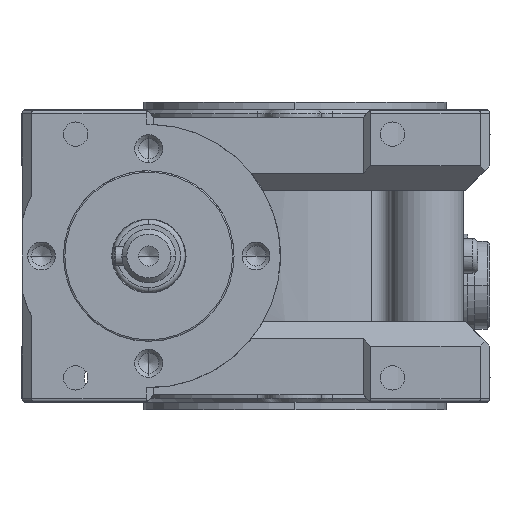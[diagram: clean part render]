
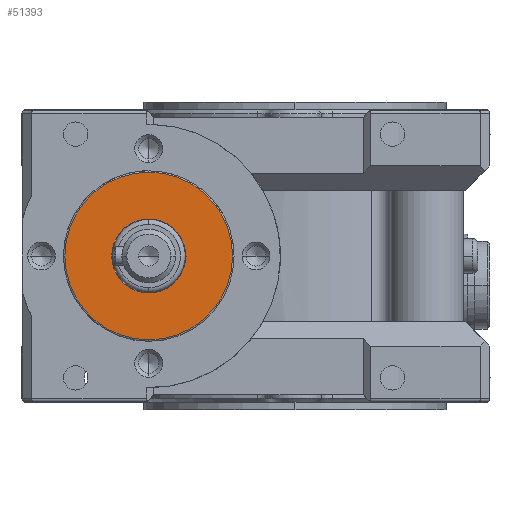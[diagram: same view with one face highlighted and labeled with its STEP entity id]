
A CAD part, left-side view. The second image highlights one B-rep face of the part: STEP entity #51393.
In plain terms, the highlighted planar face has unit normal (-1, 0, 0).
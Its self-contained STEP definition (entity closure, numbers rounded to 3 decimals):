
#50493=CARTESIAN_POINT('',(0.,0.,-7.588));
#50494=VERTEX_POINT('',#50493);
#50502=CARTESIAN_POINT('',(0.,0.,7.588));
#50503=VERTEX_POINT('',#50502);
#50504=CARTESIAN_POINT('',(0.,0.,0.0));
#50505=DIRECTION('',(1.0,0.0,0.0));
#50506=DIRECTION('',(0.0,1.0,0.0));
#50507=AXIS2_PLACEMENT_3D('',#50504,#50505,#50506);
#50508=CIRCLE('',#50507,7.588);
#50509=EDGE_CURVE('',#50503,#50494,#50508,.T.);
#50620=CARTESIAN_POINT('',(0.,7.588,0.0));
#50621=VERTEX_POINT('',#50620);
#50622=CARTESIAN_POINT('',(0.,0.,0.0));
#50623=DIRECTION('',(1.0,0.0,0.0));
#50624=DIRECTION('',(0.0,1.0,0.0));
#50625=AXIS2_PLACEMENT_3D('',#50622,#50623,#50624);
#50626=CIRCLE('',#50625,7.588);
#50627=EDGE_CURVE('',#50621,#50503,#50626,.T.);
#50629=CARTESIAN_POINT('',(0.,0.,0.0));
#50630=DIRECTION('',(1.0,0.0,0.0));
#50631=DIRECTION('',(0.0,1.0,0.0));
#50632=AXIS2_PLACEMENT_3D('',#50629,#50630,#50631);
#50633=CIRCLE('',#50632,7.588);
#50634=EDGE_CURVE('',#50494,#50621,#50633,.T.);
#51022=CARTESIAN_POINT('',(0.,0.,-17.2));
#51023=VERTEX_POINT('',#51022);
#51033=CARTESIAN_POINT('',(0.,17.2,0.0));
#51034=VERTEX_POINT('',#51033);
#51035=CARTESIAN_POINT('',(0.,0.,0.0));
#51036=DIRECTION('',(1.0,0.0,0.0));
#51037=DIRECTION('',(0.0,-1.0,0.0));
#51038=AXIS2_PLACEMENT_3D('',#51035,#51036,#51037);
#51039=CIRCLE('',#51038,17.2);
#51040=EDGE_CURVE('',#51023,#51034,#51039,.T.);
#51042=CARTESIAN_POINT('',(0.,0.,17.2));
#51043=VERTEX_POINT('',#51042);
#51044=CARTESIAN_POINT('',(0.,0.,0.0));
#51045=DIRECTION('',(1.0,0.0,0.0));
#51046=DIRECTION('',(0.0,-1.0,0.0));
#51047=AXIS2_PLACEMENT_3D('',#51044,#51045,#51046);
#51048=CIRCLE('',#51047,17.2);
#51049=EDGE_CURVE('',#51034,#51043,#51048,.T.);
#51348=CARTESIAN_POINT('',(0.,0.,0.0));
#51349=DIRECTION('',(1.0,0.0,0.0));
#51350=DIRECTION('',(0.0,-1.0,0.0));
#51351=AXIS2_PLACEMENT_3D('',#51348,#51349,#51350);
#51352=CIRCLE('',#51351,17.2);
#51353=EDGE_CURVE('',#51043,#51023,#51352,.T.);
#51378=CARTESIAN_POINT('',(0.,12.544,0.0));
#51379=DIRECTION('',(-1.0,0.0,0.0));
#51380=DIRECTION('',(0.0,0.0,1.0));
#51381=AXIS2_PLACEMENT_3D('',#51378,#51379,#51380);
#51382=PLANE('',#51381);
#51383=ORIENTED_EDGE('',*,*,#51049,.F.);
#51384=ORIENTED_EDGE('',*,*,#51040,.F.);
#51385=ORIENTED_EDGE('',*,*,#51353,.F.);
#51386=EDGE_LOOP('',(#51383,#51384,#51385));
#51387=FACE_OUTER_BOUND('',#51386,.T.);
#51388=ORIENTED_EDGE('',*,*,#50627,.T.);
#51389=ORIENTED_EDGE('',*,*,#50509,.T.);
#51390=ORIENTED_EDGE('',*,*,#50634,.T.);
#51391=EDGE_LOOP('',(#51388,#51389,#51390));
#51392=FACE_BOUND('',#51391,.T.);
#51393=ADVANCED_FACE('',(#51387,#51392),#51382,.T.);
